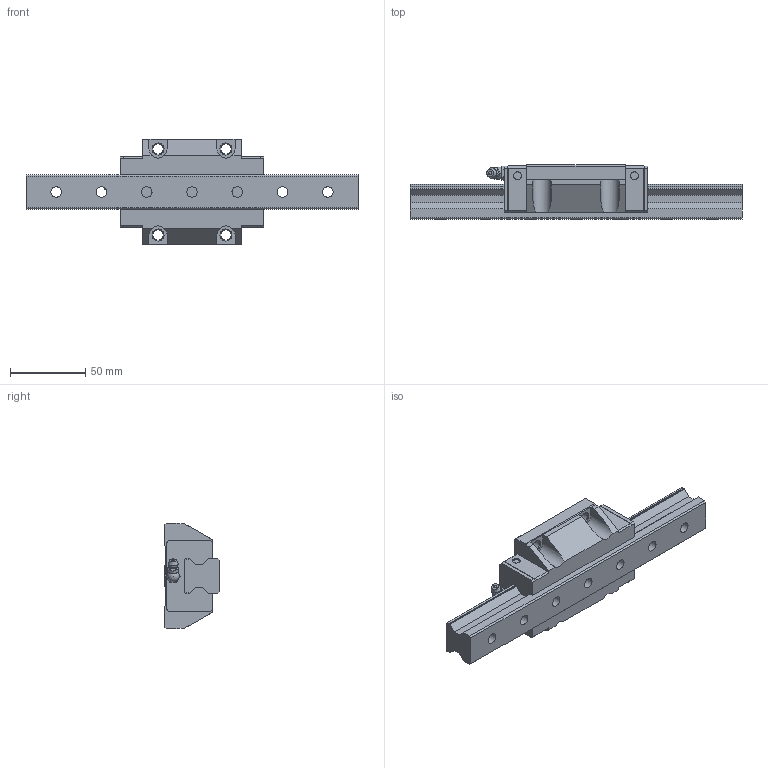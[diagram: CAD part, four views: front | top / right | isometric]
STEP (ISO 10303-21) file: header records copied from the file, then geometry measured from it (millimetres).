
FILE_DESCRIPTION(/* description */ ('STEP AP203'),/* implementation_level */ '2;1');
FILE_NAME(/* name */ 'SRG25XC1SS-220LP_G20_0_B-M6F_62-45_0_0_0_1',/* time_stamp */ '2024-05-23T09:36:33+02:00',/* author */ ('License CC BY-ND 4.0'),/* organization */ ('CADENAS'),/* preprocessor_version */ 'ST-DEVELOPER v19.3',/* originating_system */ 'PARTsolutions',/* authorisation */ ' ');
FILE_SCHEMA (('CONFIG_CONTROL_DESIGN'));
Length unit declared in the file: millimetre
Products named in the file (4): SRG25XC1SS-220LP_G20_0_B-M6F_62-45_0_0_0_1; SRG25XC22020 Track; SRG25XCSSB-M6F1 Slide25-55; SRG-B-M6F_grease_nipple_joint
Assembly tree (3 placements, depth 2):
  SRG25XC1SS-220LP_G20_0_B-M6F_62-45_0_0_0_1
    SRG25XC22020 Track
    SRG25XCSSB-M6F1 Slide25-55
    SRG-B-M6F_grease_nipple_joint
Bounding box: 220 x 36 x 70 mm (x, y, z)
Volume: 220255.6 mm3; surface area: 53318.5 mm2
Topology: 3 solids, 3 shells, 235 faces, 596 edges, 383 vertices
Faces by surface type: plane 167, cylinder 38, cone 25, sphere 3, torus 2
Full cylindrical faces by diameter (mm): 4.917 x2, 5.2 x4, 6 x1, 6.8 x6, 7 x7, 8 x1, 10.2 x2, 11 x7
Entity records: 6775 total; most frequent: CARTESIAN_POINT 1234, DIRECTION 1098, ORIENTED_EDGE 1052, EDGE_CURVE 526, LINE 384, VECTOR 384, VERTEX_POINT 369, AXIS2_PLACEMENT_3D 357
